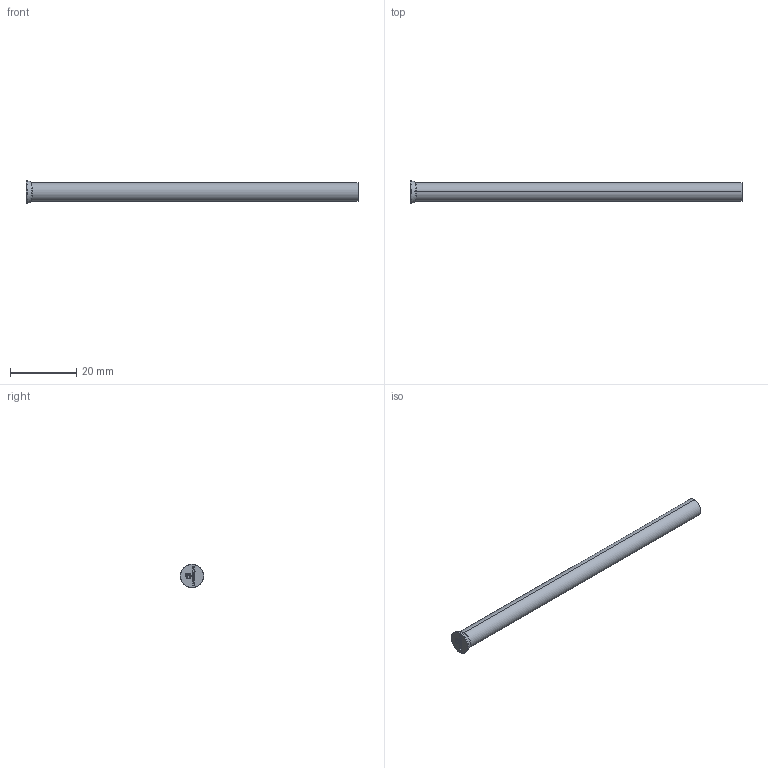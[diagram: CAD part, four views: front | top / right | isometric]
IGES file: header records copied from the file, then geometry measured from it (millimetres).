
Start section: SolidWorks IGES file using analytic representation for surfaces
Global section: file name: S:\Processos\Biblioteca De Desenhos (SITE)\SITE GERAL\PD05,5100.IGS; native system: SolidWorks 2022; preprocessor: SolidWorks 2022; author: guilherme.bizzotto; date: 260819.163032; units: millimetre
Bounding box: 100 x 7 x 7 mm (x, y, z)
Surface area: 1808.6 mm2 (no closed solid volume)
Topology: 0 solids, 0 shells, 176 faces, 1256 edges, 1256 vertices
Faces by surface type: bspline 162, revolution 14
